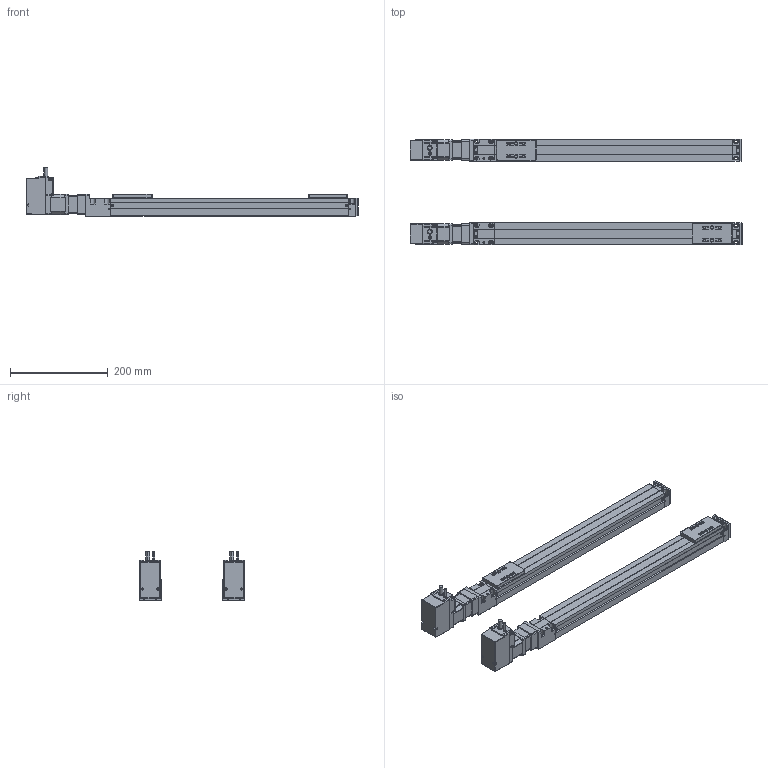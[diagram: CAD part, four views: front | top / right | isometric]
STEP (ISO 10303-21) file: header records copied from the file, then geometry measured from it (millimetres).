
FILE_DESCRIPTION(('STEP AP214'),'1');
FILE_NAME('K:\外形図\3D_DAD2\SCLT4_SBR\tmp0.step',' ',(' '),(' '),'XStep 1.0',' ',' ');
FILE_SCHEMA(('automotive_design'));
Length unit declared in the file: millimetre
Bounding box: 678.67 x 216.56 x 100.06 mm (x, y, z)
Volume: 2388635.5 mm3; surface area: 490164.4 mm2
Topology: 75 solids, 75 shells, 4185 faces, 11182 edges, 7078 vertices
Faces by surface type: plane 1957, cylinder 1672, torus 260, bspline 208, cone 48, sphere 40
Entity records: 177062 total; most frequent: CARTESIAN_POINT 35234, DIRECTION 23034, ORIENTED_EDGE 22220, EDGE_CURVE 11102, AXIS2_PLACEMENT_3D 8018, VERTEX_POINT 7078, LINE 6998, VECTOR 6998
